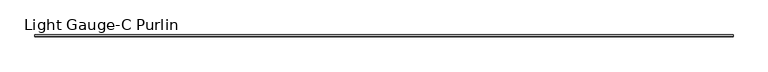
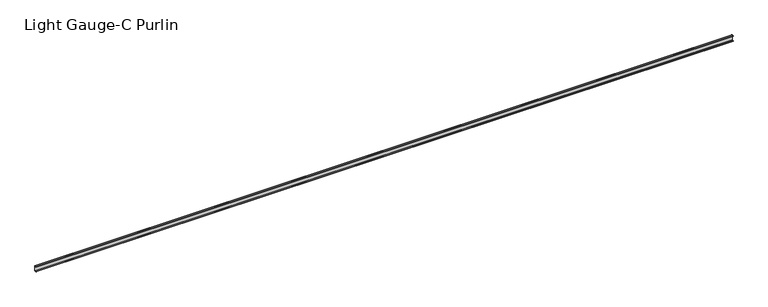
"""IFC4 building model written with IfcOpenShell, lengths in millimetres: beam geometry, Light Gauge-C Purlin : Metsec-202C15."""

import ifcopenshell
import ifcopenshell.guid

model = None  # the IFC model being written
_history = None  # IfcOwnerHistory: only IFC2X3 demands one
_inside = {}  # id of a spatial element -> (the spatial element, [elements in it])
_under = {}  # id of a project, library or spatial element -> (it, [spatial elements below it])
_declared = {}  # id of a project -> (the project, [libraries it declares])
_typed = {}  # id of a type object -> (the type object, [elements of that type])
_made_of = {}  # id of a material, layer set ... -> (it, [elements and type objects made of it])


def new_model(schema):
    """Start an empty IFC model of exactly this schema.

    Asked for "IFC4X3", IfcOpenShell would pick the latest addendum, in which some entities
    have other attributes; the version numbers below select the first issue.
    IFC2X3 requires an IfcOwnerHistory on every rooted entity: one is made here for all.
    """
    global model, _history
    if schema == "IFC4X3":
        model = ifcopenshell.file(schema_version=(4, 3, 0, 0))
    else:
        model = ifcopenshell.file(schema=schema)
    _inside.clear()
    _under.clear()
    _declared.clear()
    _typed.clear()
    _made_of.clear()
    _history = None
    if model.schema == "IFC2X3":
        org = make("IfcOrganization", Name="unknown")
        user = make(
            "IfcPersonAndOrganization",
            ThePerson=make("IfcPerson", FamilyName="unknown"),
            TheOrganization=org,
        )
        app = make(
            "IfcApplication",
            ApplicationDeveloper=org,
            Version="unknown",
            ApplicationFullName="unknown",
            ApplicationIdentifier="unknown",
        )
        _history = make(
            "IfcOwnerHistory",
            OwningUser=user,
            OwningApplication=app,
            ChangeAction="ADDED",
            CreationDate=0,
        )
    return model


def make(cls, **values):
    """One entity of the class cls with the attributes given. An attribute that is None is left unset."""
    return model.create_entity(
        cls, **{name: value for name, value in values.items() if value is not None}
    )


def rooted(cls, **values):
    """An entity with a GlobalId (a new one), such as an element, a storey or a relation."""
    return make(cls, GlobalId=ifcopenshell.guid.new(), OwnerHistory=_history, **values)


def si_unit(unit_type, name, prefix=None):
    """IfcSIUnit, for example si_unit("LENGTHUNIT", "METRE", prefix="MILLI")."""
    return make("IfcSIUnit", UnitType=unit_type, Prefix=prefix, Name=name)


def assignment(units):
    """IfcUnitAssignment: the units of a project."""
    return None if units is None else make("IfcUnitAssignment", Units=units)


def point(xyz):
    """IfcCartesianPoint."""
    return None if xyz is None else make("IfcCartesianPoint", Coordinates=xyz)


def direction(xyz):
    """IfcDirection."""
    return None if xyz is None else make("IfcDirection", DirectionRatios=xyz)


def frame(location, z_axis=None, x_axis=None):
    """IfcAxis2Placement3D, a coordinate frame: its origin and axes. An axis left out is left unset."""
    return make(
        "IfcAxis2Placement3D",
        Location=point(location),
        Axis=direction(z_axis),
        RefDirection=direction(x_axis),
    )


def frame_2d(location, x_axis=None):
    """IfcAxis2Placement2D, a coordinate frame in the plane: its origin and x axis."""
    return make(
        "IfcAxis2Placement2D", Location=point(location), RefDirection=direction(x_axis)
    )


def origin():
    """The frame at (0, 0, 0) with its axes left unset."""
    return frame((0.0, 0.0, 0.0))


def place(relative_to, where):
    """IfcLocalPlacement: puts the frame where relative to a parent placement (None: the world)."""
    return make(
        "IfcLocalPlacement", PlacementRelTo=relative_to, RelativePlacement=where
    )


def context(
    kind, dimensions, precision=None, world=None, true_north=None, identifier=None
):
    """IfcGeometricRepresentationContext, for example the 3D "Model" context."""
    return make(
        "IfcGeometricRepresentationContext",
        ContextIdentifier=identifier,
        ContextType=kind,
        CoordinateSpaceDimension=dimensions,
        Precision=precision,
        WorldCoordinateSystem=world,
        TrueNorth=true_north,
    )


def project(units=None, contexts=None):
    """IfcProject with its units and contexts."""
    return rooted(
        "IfcProject",
        Name="project",
        RepresentationContexts=contexts,
        UnitsInContext=assignment(units),
    )


def spatial(cls, under=None, at=None, **own):
    """A site, building, storey or space (cls), placed at a placement, below another one or the project."""
    s = rooted(cls, ObjectPlacement=at, **own)
    if under is not None:
        _under.setdefault(under.id(), (under, []))[1].append(s)
    return s


def polyline(points):
    """IfcPolyline through the points."""
    return make("IfcPolyline", Points=[point(p) for p in points])


def circle_curve(where, radius):
    """IfcCircle in the frame where."""
    return make("IfcCircle", Position=where, Radius=radius)


def trimmed(basis, trim1, trim2, sense, master):
    """IfcTrimmedCurve: the piece of a basis curve between two trims."""
    return make(
        "IfcTrimmedCurve",
        BasisCurve=basis,
        Trim1=trim1,
        Trim2=trim2,
        SenseAgreement=sense,
        MasterRepresentation=master,
    )


def segment(curve, same_sense, transition):
    """IfcCompositeCurveSegment."""
    return make(
        "IfcCompositeCurveSegment",
        Transition=transition,
        SameSense=same_sense,
        ParentCurve=curve,
    )


def composite_curve(segments, self_intersect=None):
    """IfcCompositeCurve: segments joined end to end."""
    return make("IfcCompositeCurve", Segments=segments, SelfIntersect=self_intersect)


def outline(outer, holes=None, kind="AREA"):
    """IfcArbitraryClosedProfileDef: a profile drawn as a closed curve; with holes, ...WithVoids."""
    if holes is None:
        return make("IfcArbitraryClosedProfileDef", ProfileType=kind, OuterCurve=outer)
    return make(
        "IfcArbitraryProfileDefWithVoids",
        ProfileType=kind,
        OuterCurve=outer,
        InnerCurves=holes,
    )


def extrude(swept, where, along, depth):
    """IfcExtrudedAreaSolid: the profile swept, set in the frame where, extruded along a direction by depth."""
    return make(
        "IfcExtrudedAreaSolid",
        SweptArea=swept,
        Position=where,
        ExtrudedDirection=direction(along),
        Depth=depth,
    )


def shape(context_of_items, identifier, shape_type, items):
    """IfcShapeRepresentation: the items that make up one representation, for example the "Body"."""
    return make(
        "IfcShapeRepresentation",
        ContextOfItems=context_of_items,
        RepresentationIdentifier=identifier,
        RepresentationType=shape_type,
        Items=items,
    )


def source(mapping_origin, context_of_items, identifier, shape_type, items):
    """IfcRepresentationMap: a shape defined once, which mapped items show again and again."""
    return make(
        "IfcRepresentationMap",
        MappingOrigin=mapping_origin,
        MappedRepresentation=shape(context_of_items, identifier, shape_type, items),
    )


def transform(
    local_origin,
    x_axis=None,
    y_axis=None,
    z_axis=None,
    scale=None,
    scale2=None,
    scale3=None,
    uniform=True,
):
    """IfcCartesianTransformationOperator3D, or its non-uniform kind. x_axis, y_axis, z_axis: its Axis1, 2, 3."""
    if uniform:
        return make(
            "IfcCartesianTransformationOperator3D",
            Axis1=direction(x_axis),
            Axis2=direction(y_axis),
            LocalOrigin=point(local_origin),
            Scale=scale,
            Axis3=direction(z_axis),
        )
    return make(
        "IfcCartesianTransformationOperator3DnonUniform",
        Axis1=direction(x_axis),
        Axis2=direction(y_axis),
        LocalOrigin=point(local_origin),
        Scale=scale,
        Axis3=direction(z_axis),
        Scale2=scale2,
        Scale3=scale3,
    )


def mapped(mapping_source, mapping_target):
    """IfcMappedItem: shows the shape of a source again, moved by a transform."""
    return make(
        "IfcMappedItem", MappingSource=mapping_source, MappingTarget=mapping_target
    )


def made_of(thing, what):
    """Note that an element or type object is made of a material, layer set ...; save() writes the relation."""
    if what is not None:
        _made_of.setdefault(what.id(), (what, []))[1].append(thing)
    return thing


def element(
    cls,
    number,
    at=None,
    inside=None,
    cuts=None,
    type_object=None,
    material=None,
    context=None,
    identifier="Body",
    shape_type=None,
    held_by="IfcProductDefinitionShape",
    body=None,
    shapes=None,
    **own,
):
    """One element of the class cls, such as IfcWall. Its Tag is "e" and its number.

    at: its placement. inside: the storey or other place that contains it. cuts: it is an
    opening in that element (IfcRelVoidsElement). A single representation is given by context,
    identifier, shape_type and body (its items); several are given by shapes. held_by: the class
    of the entity that holds the representations. save() writes the other relations.
    """
    e = rooted(cls, Tag="e%d" % number, ObjectPlacement=at, **own)
    if body is not None:
        shapes = [shape(context, identifier, shape_type, body)]
    if shapes is not None:
        e.Representation = make(held_by, Representations=shapes)
    if inside is not None:
        _inside.setdefault(inside.id(), (inside, []))[1].append(e)
    if cuts is not None:
        rooted(
            "IfcRelVoidsElement", RelatingBuildingElement=cuts, RelatedOpeningElement=e
        )
    if type_object is not None:
        _typed.setdefault(type_object.id(), (type_object, []))[1].append(e)
    return made_of(e, material)


def aggregate(whole, parts):
    """IfcRelAggregates: a whole, such as a stair, and the parts it consists of."""
    return rooted("IfcRelAggregates", RelatingObject=whole, RelatedObjects=parts)


def save(model, path):
    """Write the relations noted so far, then the file.

    IfcRelAggregates (storeys below a building ...), IfcRelContainedInSpatialStructure (elements
    in a storey), IfcRelDefinesByType, IfcRelAssociatesMaterial and IfcRelDeclares: one each for
    every whole, place, type object, material and project.
    """
    for whole, parts in _under.values():
        aggregate(whole, parts)
    for where, things in _inside.values():
        rooted(
            "IfcRelContainedInSpatialStructure",
            RelatedElements=things,
            RelatingStructure=where,
        )
    for kind, things in _typed.values():
        rooted("IfcRelDefinesByType", RelatedObjects=things, RelatingType=kind)
    for what, things in _made_of.values():
        rooted("IfcRelAssociatesMaterial", RelatedObjects=things, RelatingMaterial=what)
    for by, libraries in _declared.values():
        rooted("IfcRelDeclares", RelatingContext=by, RelatedDefinitions=libraries)
    model.write(path)


def light_gauge_c_purlin_a75ac1f7(model_context):
    return source(origin(), model_context, "Body", "SweptSolid", [
        extrude(outline(composite_curve([segment(trimmed(circle_curve(frame_2d((-47.7, 98.0)), 3.0), [point((-50.7, 98.0))], [point((-47.7, 101.0))], False, "CARTESIAN"), True, "CONTINUOUS"), segment(polyline([(-47.7, 101.0), (15.3, 101.0)]), True, "CONTINUOUS"), segment(trimmed(circle_curve(frame_2d((15.3, 98.0)), 3.0), [point((15.3, 101.0))], [point((18.3, 98.0))], False, "CARTESIAN"), True, "CONTINUOUS"), segment(polyline([(18.3, 98.0), (18.3, -98.0)]), True, "CONTINUOUS"), segment(trimmed(circle_curve(frame_2d((15.3, -98.0)), 3.0), [point((18.3, -98.0))], [point((15.3, -101.0))], False, "CARTESIAN"), True, "CONTINUOUS"), segment(polyline([(15.3, -101.0), (-47.7, -101.0)]), True, "CONTINUOUS"), segment(trimmed(circle_curve(frame_2d((-47.7, -98.0)), 3.0), [point((-47.7, -101.0))], [point((-50.7, -98.0))], False, "CARTESIAN"), True, "CONTINUOUS"), segment(polyline([(-50.7, -98.0), (-50.7, -87.0), (-49.2, -87.0), (-49.2, -98.0)]), True, "CONTINUOUS"), segment(trimmed(circle_curve(frame_2d((-47.7, -98.0)), 1.5), [point((-49.2, -98.0))], [point((-47.7, -99.5))], True, "CARTESIAN"), True, "CONTINUOUS"), segment(polyline([(-47.7, -99.5), (15.3, -99.5)]), True, "CONTINUOUS"), segment(trimmed(circle_curve(frame_2d((15.3, -98.0)), 1.5), [point((15.3, -99.5))], [point((16.8, -98.0))], True, "CARTESIAN"), True, "CONTINUOUS"), segment(polyline([(16.8, -98.0), (16.8, 98.0)]), True, "CONTINUOUS"), segment(trimmed(circle_curve(frame_2d((15.3, 98.0)), 1.5), [point((16.8, 98.0))], [point((15.3, 99.5))], True, "CARTESIAN"), True, "CONTINUOUS"), segment(polyline([(15.3, 99.5), (-47.7, 99.5)]), True, "CONTINUOUS"), segment(trimmed(circle_curve(frame_2d((-47.7, 98.0)), 1.5), [point((-47.7, 99.5))], [point((-49.2, 98.0))], True, "CARTESIAN"), True, "CONTINUOUS"), segment(polyline([(-49.2, 98.0), (-49.2, 87.0), (-50.7, 87.0), (-50.7, 98.0)]), True, "CONTINUOUS")], self_intersect=False)), frame((-13037.0, 0.0, 0.0), z_axis=(1.0, 0.0, 0.0), x_axis=(0.0, 1.0, 0.0)), (0.0, 0.0, 1.0), 26188.0),
    ])


if __name__ == "__main__":
    model = new_model("IFC4")
    model_context = context("Model", 3, world=origin())
    ifc_project = project(units=[si_unit("LENGTHUNIT", "METRE", prefix="MILLI")], contexts=[model_context])
    site = spatial("IfcSite", under=ifc_project)
    building = spatial("IfcBuilding", under=site)
    placement = place(None, origin())
    light_gauge_c_purlin_shape = light_gauge_c_purlin_a75ac1f7(model_context)
    element("IfcBeam", 1, ObjectType="Light Gauge-C Purlin : Metsec-202C15", at=placement, inside=building, context=model_context, shape_type="MappedRepresentation", body=[
        mapped(light_gauge_c_purlin_shape, transform((0.0, 0.0, 0.0), x_axis=(1.0, 0.0, 0.0), y_axis=(0.0, 1.0, 0.0), z_axis=(0.0, 0.0, 1.0))),
    ])
    save(model, "model.ifc")
